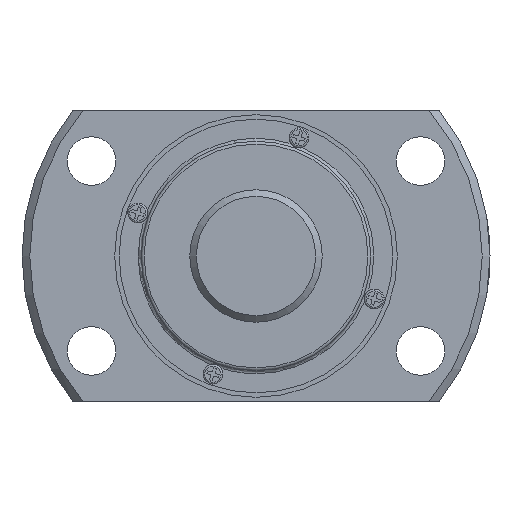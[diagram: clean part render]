
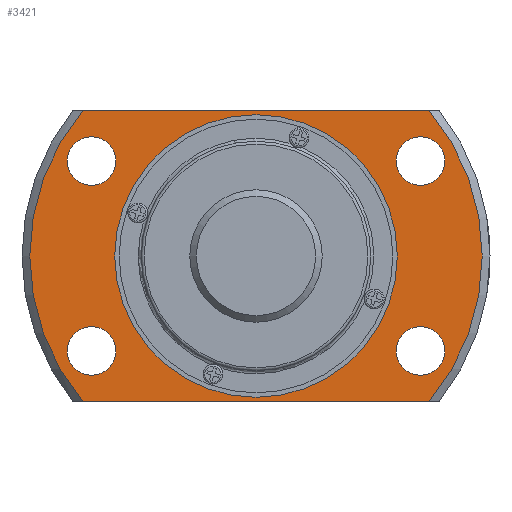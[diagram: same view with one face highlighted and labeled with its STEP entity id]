
A CAD part, left-side view. The second image highlights one B-rep face of the part: STEP entity #3421.
In plain terms, the highlighted planar face has unit normal (-1, 0, 0).
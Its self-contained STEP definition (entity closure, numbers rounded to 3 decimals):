
#24=LINE('',#5203,#352);
#25=LINE('',#5204,#353);
#352=VECTOR('',#4092,1000.);
#353=VECTOR('',#4093,1000.);
#728=PLANE('',#3681);
#912=ORIENTED_EDGE('',*,*,#1876,.T.);
#913=ORIENTED_EDGE('',*,*,#1877,.T.);
#914=ORIENTED_EDGE('',*,*,#1878,.T.);
#915=ORIENTED_EDGE('',*,*,#1879,.T.);
#916=ORIENTED_EDGE('',*,*,#1880,.T.);
#917=ORIENTED_EDGE('',*,*,#1871,.F.);
#918=ORIENTED_EDGE('',*,*,#1881,.T.);
#919=ORIENTED_EDGE('',*,*,#1874,.F.);
#920=ORIENTED_EDGE('',*,*,#1882,.T.);
#1871=EDGE_CURVE('',#2353,#2354,#2681,.T.);
#1874=EDGE_CURVE('',#2355,#2356,#2682,.T.);
#1876=EDGE_CURVE('',#2357,#2357,#2683,.T.);
#1877=EDGE_CURVE('',#2358,#2358,#2684,.T.);
#1878=EDGE_CURVE('',#2359,#2359,#2685,.T.);
#1879=EDGE_CURVE('',#2360,#2360,#2686,.T.);
#1880=EDGE_CURVE('',#2361,#2361,#2687,.T.);
#1881=EDGE_CURVE('',#2353,#2356,#24,.T.);
#1882=EDGE_CURVE('',#2355,#2354,#25,.T.);
#2353=VERTEX_POINT('',#5173);
#2354=VERTEX_POINT('',#5175);
#2355=VERTEX_POINT('',#5185);
#2356=VERTEX_POINT('',#5187);
#2357=VERTEX_POINT('',#5194);
#2358=VERTEX_POINT('',#5196);
#2359=VERTEX_POINT('',#5198);
#2360=VERTEX_POINT('',#5200);
#2361=VERTEX_POINT('',#5202);
#2681=CIRCLE('',#3678,25.617);
#2682=CIRCLE('',#3680,25.617);
#2683=CIRCLE('',#3682,16.);
#2684=CIRCLE('',#3683,2.75);
#2685=CIRCLE('',#3684,2.75);
#2686=CIRCLE('',#3685,2.75);
#2687=CIRCLE('',#3686,2.75);
#2822=EDGE_LOOP('',(#912));
#2823=EDGE_LOOP('',(#913));
#2824=EDGE_LOOP('',(#914));
#2825=EDGE_LOOP('',(#915));
#2826=EDGE_LOOP('',(#916));
#2827=EDGE_LOOP('',(#917,#918,#919,#920));
#3098=FACE_BOUND('',#2822,.T.);
#3099=FACE_BOUND('',#2823,.T.);
#3100=FACE_BOUND('',#2824,.T.);
#3101=FACE_BOUND('',#2825,.T.);
#3102=FACE_BOUND('',#2826,.T.);
#3103=FACE_BOUND('',#2827,.T.);
#3421=ADVANCED_FACE('',(#3098,#3099,#3100,#3101,#3102,#3103),#728,.T.);
#3678=AXIS2_PLACEMENT_3D('',#5174,#4074,#4075);
#3680=AXIS2_PLACEMENT_3D('',#5186,#4078,#4079);
#3681=AXIS2_PLACEMENT_3D('',#5192,#4080,#4081);
#3682=AXIS2_PLACEMENT_3D('',#5193,#4082,#4083);
#3683=AXIS2_PLACEMENT_3D('',#5195,#4084,#4085);
#3684=AXIS2_PLACEMENT_3D('',#5197,#4086,#4087);
#3685=AXIS2_PLACEMENT_3D('',#5199,#4088,#4089);
#3686=AXIS2_PLACEMENT_3D('',#5201,#4090,#4091);
#4074=DIRECTION('',(1.,0.,0.));
#4075=DIRECTION('',(0.,0.,-1.));
#4078=DIRECTION('',(1.,0.,0.));
#4079=DIRECTION('',(0.,0.,-1.));
#4080=DIRECTION('',(-1.,0.,0.));
#4081=DIRECTION('',(0.,0.,1.));
#4082=DIRECTION('',(1.,0.,0.));
#4083=DIRECTION('',(0.,0.,-1.));
#4084=DIRECTION('',(1.,0.,0.));
#4085=DIRECTION('',(0.,0.,-1.));
#4086=DIRECTION('',(1.,0.,0.));
#4087=DIRECTION('',(0.,0.,-1.));
#4088=DIRECTION('',(1.,0.,0.));
#4089=DIRECTION('',(0.,0.,-1.));
#4090=DIRECTION('',(1.,0.,0.));
#4091=DIRECTION('',(0.,0.,-1.));
#4092=DIRECTION('',(0.,1.,0.));
#4093=DIRECTION('',(0.,-1.,0.));
#5173=CARTESIAN_POINT('',(6.,-19.595,16.5));
#5174=CARTESIAN_POINT('',(6.,0.,0.));
#5175=CARTESIAN_POINT('',(6.,-19.595,-16.5));
#5185=CARTESIAN_POINT('',(6.,19.595,-16.5));
#5186=CARTESIAN_POINT('',(6.,0.,0.));
#5187=CARTESIAN_POINT('',(6.,19.595,16.5));
#5192=CARTESIAN_POINT('',(6.,25.617,0.));
#5193=CARTESIAN_POINT('',(6.,0.,0.));
#5194=CARTESIAN_POINT('',(6.,0.,-16.));
#5195=CARTESIAN_POINT('',(6.,-18.62,10.75));
#5196=CARTESIAN_POINT('',(6.,-18.62,8.));
#5197=CARTESIAN_POINT('',(6.,18.62,-10.75));
#5198=CARTESIAN_POINT('',(6.,18.62,-13.5));
#5199=CARTESIAN_POINT('',(6.,-18.62,-10.75));
#5200=CARTESIAN_POINT('',(6.,-18.62,-13.5));
#5201=CARTESIAN_POINT('',(6.,18.62,10.75));
#5202=CARTESIAN_POINT('',(6.,18.62,8.));
#5203=CARTESIAN_POINT('',(6.,25.617,16.5));
#5204=CARTESIAN_POINT('',(6.,25.617,-16.5));
